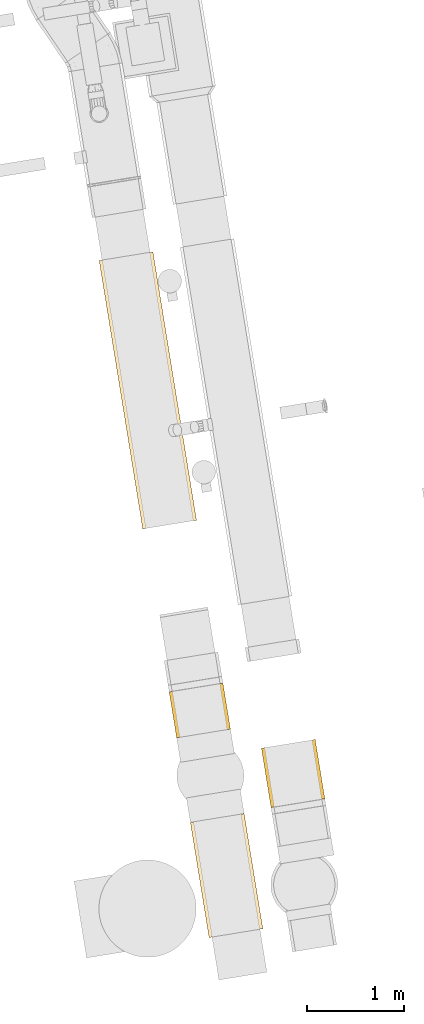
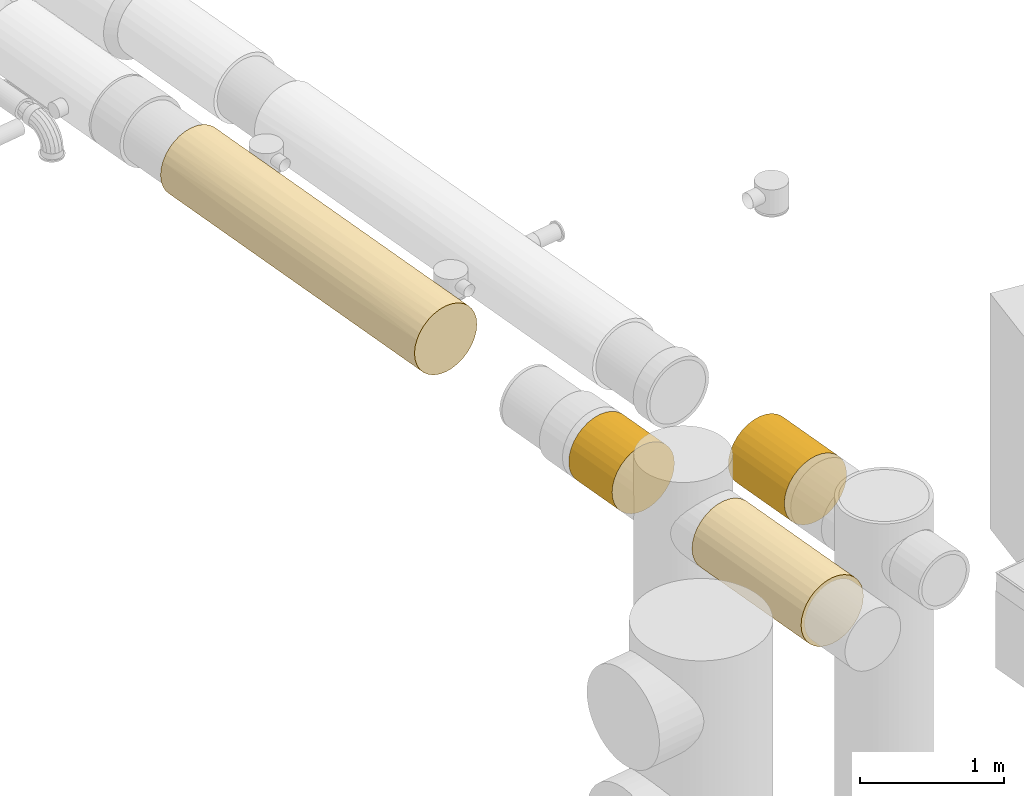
# One storey, part 2 of 39: 4 coverings.
"""IFC2X3 building model written with IfcOpenShell, lengths in millimetres."""

from ifc_helpers import new_model, entity, si_unit, converted_unit, derived_unit, direction, frame, origin, origin_with_axes, place, context, subcontext, project, spatial, faceted_brep, type_object, element, save


model = new_model("IFC2X3")

# Units and contexts
plan_context = context("Plan", 3, precision=1e-05, world=origin_with_axes())
model_context = context("Model", 3, precision=0.01, world=origin(), true_north=direction((6.12323399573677e-17, 1.0)))
body_context = subcontext(model_context, "Body", "Model", "MODEL_VIEW")
ifc_project = project(units=[converted_unit("PLANEANGLEUNIT", "DEGREE", entity("IfcPositiveLengthMeasure", 0.0174532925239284), si_unit("PLANEANGLEUNIT", "RADIAN"), dimensions=[0, 0, 0, 0, 0, 0, 0]), si_unit("AREAUNIT", "SQUARE_METRE"), si_unit("LENGTHUNIT", "METRE", prefix="MILLI"), si_unit("MASSUNIT", "GRAM", prefix="KILO"), si_unit("POWERUNIT", "WATT"), si_unit("PRESSUREUNIT", "PASCAL", prefix="KILO"), si_unit("FORCEUNIT", "NEWTON", prefix="KILO"), si_unit("ELECTRICVOLTAGEUNIT", "VOLT"), si_unit("ELECTRICCURRENTUNIT", "AMPERE"), si_unit("THERMODYNAMICTEMPERATUREUNIT", "DEGREE_CELSIUS"), si_unit("TIMEUNIT", "SECOND"), si_unit("VOLUMEUNIT", "CUBIC_METRE"), derived_unit("LINEARVELOCITYUNIT", [(si_unit("LENGTHUNIT", "METRE"), 1), (si_unit("TIMEUNIT", "SECOND"), -1)]), derived_unit("VOLUMETRICFLOWRATEUNIT", [(si_unit("VOLUMEUNIT", "CUBIC_METRE"), 1), (si_unit("TIMEUNIT", "SECOND"), -1)]), derived_unit("THERMALTRANSMITTANCEUNIT", [(si_unit("POWERUNIT", "WATT"), 1), (si_unit("THERMODYNAMICTEMPERATUREUNIT", "KELVIN"), -1), (si_unit("AREAUNIT", "SQUARE_METRE"), -1)]), derived_unit("SOUNDPRESSUREUNIT", [(si_unit("PRESSUREUNIT", "PASCAL"), 1)])], contexts=[model_context, plan_context])

# Site, building, storey
site_placement = place(None, frame((-0.00071070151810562, 0.00438415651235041, 0.0), z_axis=(0.0, 0.0, 1.0), x_axis=(-0.160236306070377, 0.987078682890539, 0.0)))
site = spatial("IfcSite", under=ifc_project, at=site_placement, Name="Default", CompositionType="ELEMENT")
building_placement = place(site_placement, origin_with_axes())
building = spatial("IfcBuilding", under=site, at=building_placement, CompositionType="ELEMENT")
storey_placement = place(building_placement, frame((0.0, 0.0, 58999.9999999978), z_axis=(0.0, 0.0, 1.0), x_axis=(1.0, 0.0, 0.0)))
storey = spatial("IfcBuildingStorey", under=building, at=storey_placement, Name="Nivå F", CompositionType="ELEMENT", Elevation=58999.9999999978)

# Coverings
covering_type_1 = type_object("IfcCoveringType", Name="Duct Insulation:EI 120-60", PredefinedType="INSULATION")
covering_1_placement = place(storey_placement, frame((765572.590423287, -502778.429977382, 2848.40472776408), z_axis=(0.0, 0.0, 1.0), x_axis=(1.0, 0.0, 0.0)))
element("IfcCovering", 1, at=covering_1_placement, inside=storey, type_object=covering_type_1, Name="Duct Insulation:EI 120-60", ObjectType="Duct Insulation:EI 120-60", PredefinedType="INSULATION", context=body_context, shape_type="Brep", body=[
    faceted_brep([(0.0, 48.7837807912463, 126.035606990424), (0.0, 22.9090031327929, 174.443911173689), (0.0, 6.97539372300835, 226.969982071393), (0.0, 1.59527223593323, 281.595272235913), (0.0, 6.97539372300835, 336.220562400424), (0.0, 22.9090031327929, 388.746633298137), (0.0, 48.7837807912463, 437.154937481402), (0.0, 83.6053735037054, 479.585170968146), (0.0, 126.035606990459, 514.406763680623), (0.0, 174.443911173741, 540.281541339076), (0.0, 226.969982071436, 556.215150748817), (0.0, 281.595272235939, 561.59527223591), (0.0, 336.220562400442, 556.215150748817), (0.0, 388.746633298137, 540.281541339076), (0.0, 437.154937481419, 514.406763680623), (0.0, 479.585170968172, 479.585170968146), (0.0, 514.406763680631, 437.154937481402), (0.0, 540.281541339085, 388.746633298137), (0.0, 556.215150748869, 336.220562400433), (0.0, 561.595272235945, 281.595272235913), (0.0, 556.215150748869, 226.969982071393), (0.0, 540.281541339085, 174.443911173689), (0.0, 514.406763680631, 126.035606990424), (0.0, 479.585170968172, 83.6053735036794), (0.0, 437.154937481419, 48.783780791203), (0.0, 388.746633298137, 22.9090031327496), (0.0, 336.220562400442, 6.97539372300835), (0.0, 281.595272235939, 1.5952722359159), (0.0, 226.969982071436, 6.97539372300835), (0.0, 174.443911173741, 22.9090031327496), (0.0, 126.035606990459, 48.783780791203), (0.0, 83.6053735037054, 83.6053735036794), (477.499999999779, 22.9090031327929, 388.746633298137), (477.499999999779, 6.97539372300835, 336.220562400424), (477.499999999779, 1.59527223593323, 281.595272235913), (477.499999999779, 6.97539372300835, 226.969982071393), (477.499999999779, 22.9090031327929, 174.443911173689), (477.499999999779, 48.7837807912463, 126.035606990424), (477.499999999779, 83.6053735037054, 83.6053735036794), (477.499999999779, 126.035606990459, 48.783780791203), (477.499999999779, 174.443911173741, 22.9090031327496), (477.499999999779, 226.969982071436, 6.97539372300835), (477.499999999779, 281.595272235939, 1.5952722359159), (477.499999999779, 336.220562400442, 6.97539372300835), (477.499999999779, 388.746633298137, 22.9090031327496), (477.499999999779, 437.154937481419, 48.783780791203), (477.499999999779, 479.585170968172, 83.6053735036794), (477.499999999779, 514.406763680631, 126.035606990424), (477.499999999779, 540.281541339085, 174.443911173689), (477.499999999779, 556.215150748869, 226.969982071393), (477.499999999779, 561.595272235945, 281.595272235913), (477.499999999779, 556.215150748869, 336.220562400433), (477.499999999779, 540.281541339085, 388.746633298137), (477.499999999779, 514.406763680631, 437.154937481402), (477.499999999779, 479.585170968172, 479.585170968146), (477.499999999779, 437.154937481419, 514.406763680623), (477.499999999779, 388.746633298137, 540.281541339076), (477.499999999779, 336.220562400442, 556.215150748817), (477.499999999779, 281.595272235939, 561.59527223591), (477.499999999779, 226.969982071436, 556.215150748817), (477.499999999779, 174.443911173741, 540.281541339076), (477.499999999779, 126.035606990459, 514.406763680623), (477.499999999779, 83.6053735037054, 479.585170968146), (477.499999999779, 48.7837807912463, 437.154937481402)], [[[0, 1, 2, 3, 4, 5, 6, 7, 8, 9, 10, 11, 12, 13, 14, 15, 16, 17, 18, 19, 20, 21, 22, 23, 24, 25, 26, 27, 28, 29, 30, 31]], [[32, 33, 34, 35, 36, 37, 38, 39, 40, 41, 42, 43, 44, 45, 46, 47, 48, 49, 50, 51, 52, 53, 54, 55, 56, 57, 58, 59, 60, 61, 62, 63]], [[50, 49, 20, 19]], [[49, 48, 21, 20]], [[22, 21, 48, 47]], [[47, 46, 23, 22]], [[25, 24, 45, 44]], [[26, 25, 44, 43]], [[27, 26, 43, 42]], [[46, 45, 24, 23]], [[28, 27, 42, 41]], [[29, 28, 41, 40]], [[30, 29, 40, 39]], [[39, 38, 31, 30]], [[1, 0, 37, 36]], [[2, 1, 36, 35]], [[3, 2, 35, 34]], [[38, 37, 0, 31]], [[4, 3, 34, 33]], [[5, 4, 33, 32]], [[6, 5, 32, 63]], [[63, 62, 7, 6]], [[9, 8, 61, 60]], [[10, 9, 60, 59]], [[11, 10, 59, 58]], [[62, 61, 8, 7]], [[12, 11, 58, 57]], [[13, 12, 57, 56]], [[14, 13, 56, 55]], [[55, 54, 15, 14]], [[17, 16, 53, 52]], [[18, 17, 52, 51]], [[19, 18, 51, 50]], [[54, 53, 16, 15]]]),
])
covering_2_placement = place(storey_placement, frame((763492.869644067, -502778.429977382, 2848.40472776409), z_axis=(0.0, 0.0, 1.0), x_axis=(1.0, 0.0, 0.0)))
element("IfcCovering", 2, at=covering_2_placement, inside=storey, type_object=covering_type_1, Name="Duct Insulation:EI 120-60", ObjectType="Duct Insulation:EI 120-60", PredefinedType="INSULATION", context=body_context, shape_type="Brep", body=[
    faceted_brep([(0.0, 48.7837807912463, 126.035606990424), (0.0, 22.9090031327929, 174.443911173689), (0.0, 6.97539372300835, 226.969982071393), (0.0, 1.59527223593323, 281.595272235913), (0.0, 6.97539372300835, 336.220562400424), (0.0, 22.9090031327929, 388.746633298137), (0.0, 48.7837807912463, 437.154937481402), (0.0, 83.6053735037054, 479.585170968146), (0.0, 126.035606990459, 514.406763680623), (0.0, 174.443911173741, 540.281541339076), (0.0, 226.969982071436, 556.215150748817), (0.0, 281.595272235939, 561.59527223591), (0.0, 336.220562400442, 556.215150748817), (0.0, 388.746633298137, 540.281541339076), (0.0, 437.154937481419, 514.406763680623), (0.0, 479.585170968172, 479.585170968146), (0.0, 514.406763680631, 437.154937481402), (0.0, 540.281541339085, 388.746633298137), (0.0, 556.215150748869, 336.220562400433), (0.0, 561.595272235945, 281.595272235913), (0.0, 556.215150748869, 226.969982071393), (0.0, 540.281541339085, 174.443911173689), (0.0, 514.406763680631, 126.035606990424), (0.0, 479.585170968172, 83.6053735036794), (0.0, 437.154937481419, 48.783780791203), (0.0, 388.746633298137, 22.9090031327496), (0.0, 336.220562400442, 6.97539372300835), (0.0, 281.595272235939, 1.5952722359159), (0.0, 226.969982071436, 6.97539372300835), (0.0, 174.443911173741, 22.9090031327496), (0.0, 126.035606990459, 48.783780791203), (0.0, 83.6053735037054, 83.6053735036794), (1199.72077922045, 22.9090031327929, 388.746633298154), (1199.72077922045, 6.97539372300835, 336.220562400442), (1199.72077922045, 1.59527223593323, 281.59527223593), (1199.72077922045, 6.97539372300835, 226.96998207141), (1199.72077922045, 22.9090031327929, 174.443911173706), (1199.72077922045, 48.7837807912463, 126.035606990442), (1199.72077922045, 83.6053735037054, 83.6053735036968), (1199.72077922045, 126.035606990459, 48.7837807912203), (1199.72077922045, 174.443911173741, 22.9090031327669), (1199.72077922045, 226.969982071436, 6.97539372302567), (1199.72077922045, 281.595272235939, 1.59527223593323), (1199.72077922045, 336.220562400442, 6.97539372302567), (1199.72077922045, 388.746633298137, 22.9090031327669), (1199.72077922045, 437.154937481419, 48.7837807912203), (1199.72077922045, 479.585170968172, 83.6053735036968), (1199.72077922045, 514.406763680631, 126.035606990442), (1199.72077922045, 540.281541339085, 174.443911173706), (1199.72077922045, 556.215150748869, 226.96998207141), (1199.72077922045, 561.595272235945, 281.59527223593), (1199.72077922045, 556.215150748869, 336.22056240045), (1199.72077922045, 540.281541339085, 388.746633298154), (1199.72077922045, 514.406763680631, 437.154937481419), (1199.72077922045, 479.585170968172, 479.585170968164), (1199.72077922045, 437.154937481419, 514.40676368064), (1199.72077922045, 388.746633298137, 540.281541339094), (1199.72077922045, 336.220562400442, 556.215150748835), (1199.72077922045, 281.595272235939, 561.595272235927), (1199.72077922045, 226.969982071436, 556.215150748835), (1199.72077922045, 174.443911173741, 540.281541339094), (1199.72077922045, 126.035606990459, 514.40676368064), (1199.72077922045, 83.6053735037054, 479.585170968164), (1199.72077922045, 48.7837807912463, 437.154937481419)], [[[0, 1, 2, 3, 4, 5, 6, 7, 8, 9, 10, 11, 12, 13, 14, 15, 16, 17, 18, 19, 20, 21, 22, 23, 24, 25, 26, 27, 28, 29, 30, 31]], [[32, 33, 34, 35, 36, 37, 38, 39, 40, 41, 42, 43, 44, 45, 46, 47, 48, 49, 50, 51, 52, 53, 54, 55, 56, 57, 58, 59, 60, 61, 62, 63]], [[50, 49, 20, 19]], [[49, 48, 21, 20]], [[22, 21, 48, 47]], [[47, 46, 23, 22]], [[25, 24, 45, 44]], [[26, 25, 44, 43]], [[27, 26, 43, 42]], [[46, 45, 24, 23]], [[28, 27, 42, 41]], [[29, 28, 41, 40]], [[30, 29, 40, 39]], [[39, 38, 31, 30]], [[1, 0, 37, 36]], [[2, 1, 36, 35]], [[3, 2, 35, 34]], [[38, 37, 0, 31]], [[4, 3, 34, 33]], [[5, 4, 33, 32]], [[6, 5, 32, 63]], [[63, 62, 7, 6]], [[9, 8, 61, 60]], [[10, 9, 60, 59]], [[11, 10, 59, 58]], [[62, 61, 8, 7]], [[12, 11, 58, 57]], [[13, 12, 57, 56]], [[14, 13, 56, 55]], [[55, 54, 15, 14]], [[17, 16, 53, 52]], [[18, 17, 52, 51]], [[19, 18, 51, 50]], [[54, 53, 16, 15]]]),
])
covering_3_placement = place(storey_placement, frame((764710.090423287, -503621.603887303, 2848.4042692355), z_axis=(0.0, 0.0, 1.0), x_axis=(1.0, 0.0, 0.0)))
element("IfcCovering", 3, at=covering_3_placement, inside=storey, type_object=covering_type_1, Name="Duct Insulation:EI 120-60", ObjectType="Duct Insulation:EI 120-60", PredefinedType="INSULATION", context=body_context, shape_type="Brep", body=[
    faceted_brep([(0.0, 48.7837807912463, 126.035606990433), (0.0, 22.9090031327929, 174.443911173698), (0.0, 6.97539372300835, 226.969982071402), (0.0, 1.59527223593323, 281.595272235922), (0.0, 6.97539372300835, 336.220562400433), (0.0, 22.9090031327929, 388.746633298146), (0.0, 48.7837807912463, 437.15493748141), (0.0, 83.6053735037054, 479.585170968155), (0.0, 126.035606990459, 514.406763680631), (0.0, 174.443911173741, 540.281541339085), (0.0, 226.969982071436, 556.215150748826), (0.0, 281.595272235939, 561.595272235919), (0.0, 336.220562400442, 556.215150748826), (0.0, 388.746633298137, 540.281541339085), (0.0, 437.154937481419, 514.406763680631), (0.0, 479.585170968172, 479.585170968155), (0.0, 514.406763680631, 437.15493748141), (0.0, 540.281541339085, 388.746633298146), (0.0, 556.215150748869, 336.220562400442), (0.0, 561.595272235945, 281.595272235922), (0.0, 556.215150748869, 226.969982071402), (0.0, 540.281541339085, 174.443911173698), (0.0, 514.406763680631, 126.035606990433), (0.0, 479.585170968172, 83.6053735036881), (0.0, 437.154937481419, 48.7837807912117), (0.0, 388.746633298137, 22.9090031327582), (0.0, 336.220562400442, 6.97539372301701), (0.0, 281.595272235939, 1.59527223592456), (0.0, 226.969982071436, 6.97539372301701), (0.0, 174.443911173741, 22.9090031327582), (0.0, 126.035606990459, 48.7837807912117), (0.0, 83.6053735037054, 83.6053735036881), (617.529220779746, 22.9090031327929, 388.746633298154), (617.529220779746, 6.97539372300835, 336.220562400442), (617.529220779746, 1.59527223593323, 281.59527223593), (617.529220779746, 6.97539372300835, 226.96998207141), (617.529220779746, 22.9090031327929, 174.443911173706), (617.529220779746, 48.7837807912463, 126.035606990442), (617.529220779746, 83.6053735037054, 83.6053735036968), (617.529220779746, 126.035606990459, 48.7837807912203), (617.529220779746, 174.443911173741, 22.9090031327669), (617.529220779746, 226.969982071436, 6.97539372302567), (617.529220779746, 281.595272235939, 1.59527223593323), (617.529220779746, 336.220562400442, 6.97539372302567), (617.529220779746, 388.746633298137, 22.9090031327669), (617.529220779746, 437.154937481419, 48.7837807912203), (617.529220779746, 479.585170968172, 83.6053735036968), (617.529220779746, 514.406763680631, 126.035606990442), (617.529220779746, 540.281541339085, 174.443911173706), (617.529220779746, 556.215150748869, 226.96998207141), (617.529220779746, 561.595272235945, 281.59527223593), (617.529220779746, 556.215150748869, 336.22056240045), (617.529220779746, 540.281541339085, 388.746633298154), (617.529220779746, 514.406763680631, 437.154937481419), (617.529220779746, 479.585170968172, 479.585170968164), (617.529220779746, 437.154937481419, 514.40676368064), (617.529220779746, 388.746633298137, 540.281541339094), (617.529220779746, 336.220562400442, 556.215150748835), (617.529220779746, 281.595272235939, 561.595272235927), (617.529220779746, 226.969982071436, 556.215150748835), (617.529220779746, 174.443911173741, 540.281541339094), (617.529220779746, 126.035606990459, 514.40676368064), (617.529220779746, 83.6053735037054, 479.585170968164), (617.529220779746, 48.7837807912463, 437.154937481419)], [[[0, 1, 2, 3, 4, 5, 6, 7, 8, 9, 10, 11, 12, 13, 14, 15, 16, 17, 18, 19, 20, 21, 22, 23, 24, 25, 26, 27, 28, 29, 30, 31]], [[32, 33, 34, 35, 36, 37, 38, 39, 40, 41, 42, 43, 44, 45, 46, 47, 48, 49, 50, 51, 52, 53, 54, 55, 56, 57, 58, 59, 60, 61, 62, 63]], [[50, 49, 20, 19]], [[49, 48, 21, 20]], [[22, 21, 48, 47]], [[47, 46, 23, 22]], [[25, 24, 45, 44]], [[26, 25, 44, 43]], [[27, 26, 43, 42]], [[46, 45, 24, 23]], [[28, 27, 42, 41]], [[29, 28, 41, 40]], [[30, 29, 40, 39]], [[39, 38, 31, 30]], [[1, 0, 37, 36]], [[2, 1, 36, 35]], [[3, 2, 35, 34]], [[38, 37, 0, 31]], [[4, 3, 34, 33]], [[5, 4, 33, 32]], [[6, 5, 32, 63]], [[63, 62, 7, 6]], [[9, 8, 61, 60]], [[10, 9, 60, 59]], [[11, 10, 59, 58]], [[62, 61, 8, 7]], [[12, 11, 58, 57]], [[13, 12, 57, 56]], [[14, 13, 56, 55]], [[55, 54, 15, 14]], [[17, 16, 53, 52]], [[18, 17, 52, 51]], [[19, 18, 51, 50]], [[54, 53, 16, 15]]]),
])
covering_type_2 = type_object("IfcCoveringType", Name="Duct Insulation:EI 60-30", PredefinedType="INSULATION")
covering_4_placement = place(storey_placement, frame((767747.619644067, -502778.429977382, 2848.40472776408), z_axis=(0.0, 0.0, 1.0), x_axis=(1.0, 0.0, 0.0)))
element("IfcCovering", 4, at=covering_4_placement, inside=storey, type_object=covering_type_2, Name="Duct Insulation:EI 60-30", ObjectType="Duct Insulation:EI 60-30", PredefinedType="INSULATION", context=body_context, shape_type="Brep", body=[
    faceted_brep([(0.0, 48.7837807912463, 126.035606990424), (0.0, 22.9090031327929, 174.443911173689), (0.0, 6.97539372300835, 226.969982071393), (0.0, 1.59527223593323, 281.595272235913), (0.0, 6.97539372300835, 336.220562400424), (0.0, 22.9090031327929, 388.746633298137), (0.0, 48.7837807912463, 437.154937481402), (0.0, 83.6053735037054, 479.585170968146), (0.0, 126.035606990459, 514.406763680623), (0.0, 174.443911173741, 540.281541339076), (0.0, 226.969982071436, 556.215150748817), (0.0, 281.595272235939, 561.59527223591), (0.0, 336.220562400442, 556.215150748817), (0.0, 388.746633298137, 540.281541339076), (0.0, 437.154937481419, 514.406763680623), (0.0, 479.585170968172, 479.585170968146), (0.0, 514.406763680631, 437.154937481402), (0.0, 540.281541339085, 388.746633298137), (0.0, 556.215150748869, 336.220562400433), (0.0, 561.595272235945, 281.595272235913), (0.0, 556.215150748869, 226.969982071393), (0.0, 540.281541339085, 174.443911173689), (0.0, 514.406763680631, 126.035606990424), (0.0, 479.585170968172, 83.6053735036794), (0.0, 437.154937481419, 48.783780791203), (0.0, 388.746633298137, 22.9090031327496), (0.0, 336.220562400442, 6.97539372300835), (0.0, 281.595272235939, 1.5952722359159), (0.0, 226.969982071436, 6.97539372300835), (0.0, 174.443911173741, 22.9090031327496), (0.0, 126.035606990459, 48.783780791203), (0.0, 83.6053735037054, 83.6053735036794), (2794.74999999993, 22.9090031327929, 388.746633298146), (2794.74999999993, 6.97539372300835, 336.220562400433), (2794.74999999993, 1.59527223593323, 281.595272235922), (2794.74999999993, 6.97539372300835, 226.969982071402), (2794.74999999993, 22.9090031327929, 174.443911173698), (2794.74999999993, 48.7837807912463, 126.035606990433), (2794.74999999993, 83.6053735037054, 83.6053735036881), (2794.74999999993, 126.035606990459, 48.7837807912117), (2794.74999999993, 174.443911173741, 22.9090031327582), (2794.74999999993, 226.969982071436, 6.97539372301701), (2794.74999999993, 281.595272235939, 1.59527223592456), (2794.74999999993, 336.220562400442, 6.97539372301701), (2794.74999999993, 388.746633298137, 22.9090031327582), (2794.74999999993, 437.154937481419, 48.7837807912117), (2794.74999999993, 479.585170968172, 83.6053735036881), (2794.74999999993, 514.406763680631, 126.035606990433), (2794.74999999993, 540.281541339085, 174.443911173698), (2794.74999999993, 556.215150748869, 226.969982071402), (2794.74999999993, 561.595272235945, 281.595272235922), (2794.74999999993, 556.215150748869, 336.220562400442), (2794.74999999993, 540.281541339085, 388.746633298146), (2794.74999999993, 514.406763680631, 437.15493748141), (2794.74999999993, 479.585170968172, 479.585170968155), (2794.74999999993, 437.154937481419, 514.406763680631), (2794.74999999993, 388.746633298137, 540.281541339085), (2794.74999999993, 336.220562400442, 556.215150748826), (2794.74999999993, 281.595272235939, 561.595272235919), (2794.74999999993, 226.969982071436, 556.215150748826), (2794.74999999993, 174.443911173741, 540.281541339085), (2794.74999999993, 126.035606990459, 514.406763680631), (2794.74999999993, 83.6053735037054, 479.585170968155), (2794.74999999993, 48.7837807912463, 437.15493748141), (1973.76712461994, 528.533225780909, 149.604185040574), (1937.38184298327, 553.855347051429, 216.215981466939), (2080.88643941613, 498.038198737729, 103.965152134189), (1973.76712541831, 459.225391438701, 65.1523449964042), (785.518114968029, 459.225391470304, 65.152345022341), (610.312922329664, 413.586358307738, 34.6573180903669), (1093.33274270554, 549.538565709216, 200.315560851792), (813.101079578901, 561.595272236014, 281.595272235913), (1626.2021591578, 561.595272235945, 281.595272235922), (1397.37500024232, 498.038198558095, 103.965151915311), (1071.39272325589, 527.01325853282, 146.799085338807), (668.900477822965, 500.367364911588, 106.841813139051), (785.518113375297, 362.874981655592, 13.6519781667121), (1937.34594380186, 362.874981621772, 13.6519781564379), (584.273911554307, 281.595272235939, 1.5952722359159), (1981.64891184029, 281.595272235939, 1.5952722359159), (1626.20217689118, 281.595272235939, 1.5952722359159), (1310.16438004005, 413.586358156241, 34.6573180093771), (2169.00081842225, 413.172617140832, 34.4366140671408), (1168.54782368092, 281.595272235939, 1.5952722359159), (584.273909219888, 561.595272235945, 281.595272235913), (1701.41724959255, 200.315562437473, 13.6519782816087), (1973.76712400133, 65.1523452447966, 103.965152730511), (785.518114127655, 65.1523452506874, 103.965152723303), (1397.37499999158, 103.965152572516, 65.1523453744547), (1728.96341077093, 146.708977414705, 36.2267993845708), (785.518113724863, 13.6519782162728, 200.315562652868), (610.312921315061, 34.657318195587, 149.604185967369), (584.273910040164, 1.59527223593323, 281.595272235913), (1981.64891011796, 1.59527223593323, 281.595272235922), (1626.20217991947, 1.59527223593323, 281.595272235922), (820.982876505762, 149.6041858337, 34.6573182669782), (857.368164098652, 216.215982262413, 9.33519722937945), (2127.26289655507, 106.469734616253, 63.1209120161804), (616.632042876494, 104.273938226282, 64.8992997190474), (1937.3459438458, 13.6519782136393, 200.315562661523), (1310.16438039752, 34.6573181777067, 149.604186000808), (2169.00081917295, 34.436614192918, 150.017927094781), (1168.54782023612, 1.59527223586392, 281.595272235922), (1701.4172500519, 13.6519782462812, 362.874981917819), (1973.76712417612, 103.965152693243, 498.038199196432), (785.518113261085, 103.965152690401, 498.038199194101), (1397.37499999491, 65.1523453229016, 459.225391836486), (1728.96341007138, 36.2267993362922, 416.481566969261), (785.518113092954, 200.315562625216, 549.538566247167), (610.312920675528, 149.604185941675, 528.533226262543), (584.27390949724, 281.595272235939, 561.59527223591), (1981.64890953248, 281.595272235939, 561.59527223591), (1626.20218100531, 281.595272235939, 561.59527223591), (820.982876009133, 34.6573182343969, 413.586358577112), (857.368163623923, 9.33519727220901, 346.97456238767), (2127.26289622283, 63.1209119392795, 456.720809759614), (616.632042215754, 64.8992996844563, 458.916606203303), (1937.34594350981, 200.315562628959, 549.538566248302), (1310.16437921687, 149.604185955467, 528.533226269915), (2169.0008195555, 150.017927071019, 528.753930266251), (1168.54781906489, 281.595272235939, 561.59527223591), (1701.41725024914, 362.874981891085, 549.538566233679), (1973.7671242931, 498.03819918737, 459.225391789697), (785.518112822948, 498.038199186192, 459.225391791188), (1397.37499999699, 459.225391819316, 498.038199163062), (1728.96340973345, 416.481566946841, 526.963745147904), (785.518112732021, 549.538566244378, 362.874981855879), (610.312920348, 528.533226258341, 413.586358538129), (820.982875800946, 413.586358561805, 528.533226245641), (857.368163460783, 346.974562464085, 553.855347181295), (2127.2628960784, 456.720809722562, 500.069632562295), (616.632041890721, 458.916606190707, 498.291244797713), (1937.34594333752, 549.538566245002, 362.874981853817), (1310.16437857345, 528.533226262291, 413.586358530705), (2169.00081975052, 528.753930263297, 413.172617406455)], [[[0, 1, 2, 3, 4, 5, 6, 7, 8, 9, 10, 11, 12, 13, 14, 15, 16, 17, 18, 19, 20, 21, 22, 23, 24, 25, 26, 27, 28, 29, 30, 31]], [[32, 33, 34, 35, 36, 37, 38, 39, 40, 41, 42, 43, 44, 45, 46, 47, 48, 49, 50, 51, 52, 53, 54, 55, 56, 57, 58, 59, 60, 61, 62, 63]], [[64, 65, 48]], [[48, 47, 64]], [[46, 66, 47]], [[46, 45, 67]], [[68, 69, 24]], [[70, 21, 20]], [[20, 71, 70]], [[49, 65, 50]], [[50, 65, 72]], [[73, 66, 67, 68]], [[74, 73, 75]], [[26, 25, 76]], [[70, 74, 21]], [[70, 72, 65]], [[68, 75, 73]], [[44, 43, 77]], [[64, 66, 73]], [[78, 27, 26]], [[43, 42, 79, 80]], [[81, 67, 82]], [[68, 67, 81, 69]], [[76, 25, 69]], [[77, 80, 83, 78, 76]], [[69, 81, 77, 76]], [[82, 44, 77]], [[23, 68, 24]], [[64, 70, 65]], [[74, 64, 73]], [[75, 23, 22]], [[45, 44, 82]], [[43, 80, 77]], [[78, 26, 76]], [[24, 69, 25]], [[23, 75, 68]], [[22, 21, 74]], [[74, 75, 22]], [[64, 74, 70]], [[20, 19, 84, 71]], [[71, 72, 70]], [[65, 49, 48]], [[47, 66, 64]], [[46, 67, 66]], [[81, 82, 77]], [[45, 82, 67]], [[41, 40, 85]], [[86, 87, 88]], [[39, 89, 40]], [[90, 1, 91]], [[92, 3, 2]], [[35, 34, 93, 94]], [[95, 29, 96]], [[79, 42, 41]], [[41, 85, 79]], [[96, 27, 78, 83]], [[96, 83, 85]], [[2, 1, 90]], [[38, 37, 86]], [[95, 30, 29]], [[86, 97, 38]], [[30, 95, 98]], [[99, 90, 91, 100]], [[88, 97, 86]], [[89, 95, 85]], [[100, 86, 101]], [[31, 30, 98]], [[96, 29, 28]], [[99, 94, 102, 92, 90]], [[101, 36, 99]], [[31, 87, 0]], [[98, 88, 87]], [[89, 39, 97]], [[36, 35, 99]], [[35, 94, 99]], [[37, 36, 101]], [[87, 86, 100, 91]], [[87, 91, 0]], [[92, 2, 90]], [[89, 97, 88]], [[38, 97, 39]], [[95, 89, 88]], [[40, 89, 85]], [[0, 91, 1]], [[85, 83, 80, 79]], [[95, 96, 85]], [[27, 96, 28]], [[100, 101, 99]], [[37, 101, 86]], [[88, 98, 95]], [[31, 98, 87]], [[33, 32, 103]], [[104, 105, 106]], [[63, 107, 32]], [[108, 9, 109]], [[110, 11, 10]], [[59, 58, 111, 112]], [[113, 5, 114]], [[93, 34, 33]], [[33, 103, 93]], [[114, 3, 92, 102]], [[114, 102, 103]], [[10, 9, 108]], [[62, 61, 104]], [[113, 6, 5]], [[104, 115, 62]], [[6, 113, 116]], [[117, 108, 109, 118]], [[106, 115, 104]], [[107, 113, 103]], [[118, 104, 119]], [[7, 6, 116]], [[114, 5, 4]], [[117, 112, 120, 110, 108]], [[119, 60, 117]], [[7, 105, 8]], [[116, 106, 105]], [[107, 63, 115]], [[60, 59, 117]], [[59, 112, 117]], [[61, 60, 119]], [[105, 104, 118, 109]], [[105, 109, 8]], [[110, 10, 108]], [[107, 115, 106]], [[62, 115, 63]], [[113, 107, 106]], [[32, 107, 103]], [[8, 109, 9]], [[103, 102, 94, 93]], [[113, 114, 103]], [[3, 114, 4]], [[118, 119, 117]], [[61, 119, 104]], [[106, 116, 113]], [[7, 116, 105]], [[57, 56, 121]], [[122, 123, 124]], [[55, 125, 56]], [[126, 17, 127]], [[84, 19, 18]], [[51, 50, 72]], [[128, 13, 129]], [[111, 58, 57]], [[57, 121, 111]], [[129, 11, 110, 120]], [[129, 120, 121]], [[18, 17, 126]], [[54, 53, 122]], [[128, 14, 13]], [[122, 130, 54]], [[14, 128, 131]], [[132, 126, 127, 133]], [[124, 130, 122]], [[125, 128, 121]], [[133, 122, 134]], [[15, 14, 131]], [[129, 13, 12]], [[132, 72, 71, 84, 126]], [[134, 52, 132]], [[15, 123, 16]], [[131, 124, 123]], [[125, 55, 130]], [[52, 51, 132]], [[51, 72, 132]], [[53, 52, 134]], [[123, 122, 133, 127]], [[123, 127, 16]], [[84, 18, 126]], [[125, 130, 124]], [[54, 130, 55]], [[128, 125, 124]], [[56, 125, 121]], [[16, 127, 17]], [[121, 120, 112, 111]], [[128, 129, 121]], [[11, 129, 12]], [[133, 134, 132]], [[53, 134, 122]], [[124, 131, 128]], [[15, 131, 123]]]),
])

save(model, "model.ifc")
